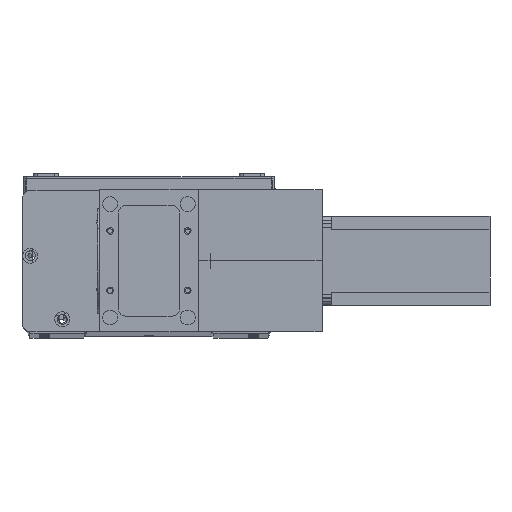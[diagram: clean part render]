
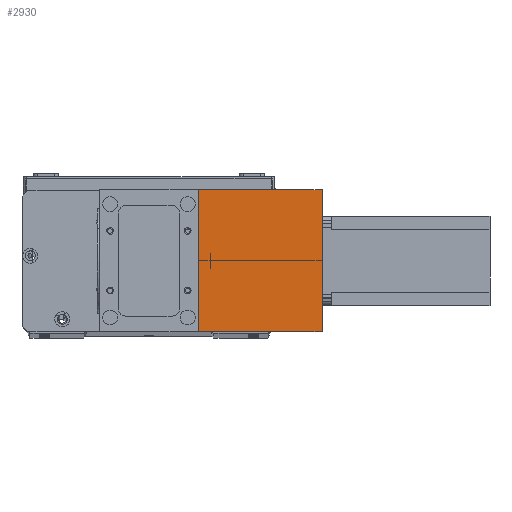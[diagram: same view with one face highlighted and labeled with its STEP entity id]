
A CAD part, top view. The second image highlights one B-rep face of the part: STEP entity #2930.
In plain terms, the highlighted planar face has unit normal (0, 0, 1) as drawn and (1, 0, 0) by its records, which use the part's own axes.
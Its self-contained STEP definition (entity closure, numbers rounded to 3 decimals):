
#1012 = CARTESIAN_POINT ( 'NONE',  ( 82., 95., 0. ) ) ;
#2064 = AXIS2_PLACEMENT_3D ( 'NONE', #18683, #18090, #18055 ) ;
#2930 = ADVANCED_FACE ( 'NONE', ( #24669 ), #18116, .F. ) ;
#3317 = VECTOR ( 'NONE', #16892, 1000. ) ;
#4996 = LINE ( 'NONE', #25002, #24051 ) ;
#6035 = EDGE_CURVE ( 'NONE', #19197, #8647, #21800, .T. ) ;
#6343 = EDGE_CURVE ( 'NONE', #8647, #14616, #28936, .T. ) ;
#6386 = EDGE_CURVE ( 'NONE', #8608, #14616, #15519, .T. ) ;
#6562 = EDGE_CURVE ( 'NONE', #19197, #8608, #4996, .T. ) ;
#8608 = VERTEX_POINT ( 'NONE', #19412 ) ;
#8647 = VERTEX_POINT ( 'NONE', #18807 ) ;
#11657 = CARTESIAN_POINT ( 'NONE',  ( 82., 0., 83. ) ) ;
#14154 = ORIENTED_EDGE ( 'NONE', *, *, #6562, .F. ) ;
#14616 = VERTEX_POINT ( 'NONE', #1012 ) ;
#15519 = LINE ( 'NONE', #21738, #20923 ) ;
#16892 = DIRECTION ( 'NONE',  ( 0., 0., -1. ) ) ;
#17190 = CARTESIAN_POINT ( 'NONE',  ( 82., 0., 83. ) ) ;
#17826 = DIRECTION ( 'NONE',  ( 0., 0., -1. ) ) ;
#18055 = DIRECTION ( 'NONE',  ( 0., 0., 1. ) ) ;
#18090 = DIRECTION ( 'NONE',  ( -1., 0., 0. ) ) ;
#18116 = PLANE ( 'NONE',  #2064 ) ;
#18683 = CARTESIAN_POINT ( 'NONE',  ( 82., 0., 83. ) ) ;
#18807 = CARTESIAN_POINT ( 'NONE',  ( 82., 0., 0. ) ) ;
#19197 = VERTEX_POINT ( 'NONE', #11657 ) ;
#19412 = CARTESIAN_POINT ( 'NONE',  ( 82., 95., 83. ) ) ;
#20923 = VECTOR ( 'NONE', #17826, 1000. ) ;
#21437 = EDGE_LOOP ( 'NONE', ( #22326, #28366, #14154, #28587 ) ) ;
#21738 = CARTESIAN_POINT ( 'NONE',  ( 82., 95., 83. ) ) ;
#21800 = LINE ( 'NONE', #17190, #3317 ) ;
#22326 = ORIENTED_EDGE ( 'NONE', *, *, #6343, .T. ) ;
#22376 = VECTOR ( 'NONE', #27737, 1000. ) ;
#24051 = VECTOR ( 'NONE', #26877, 1000. ) ;
#24669 = FACE_OUTER_BOUND ( 'NONE', #21437, .T. ) ;
#25002 = CARTESIAN_POINT ( 'NONE',  ( 82., 0., 83. ) ) ;
#26877 = DIRECTION ( 'NONE',  ( 0., 1., 0. ) ) ;
#27630 = CARTESIAN_POINT ( 'NONE',  ( 82., 0., 0. ) ) ;
#27737 = DIRECTION ( 'NONE',  ( 0., 1., 0. ) ) ;
#28366 = ORIENTED_EDGE ( 'NONE', *, *, #6386, .F. ) ;
#28587 = ORIENTED_EDGE ( 'NONE', *, *, #6035, .T. ) ;
#28936 = LINE ( 'NONE', #27630, #22376 ) ;
